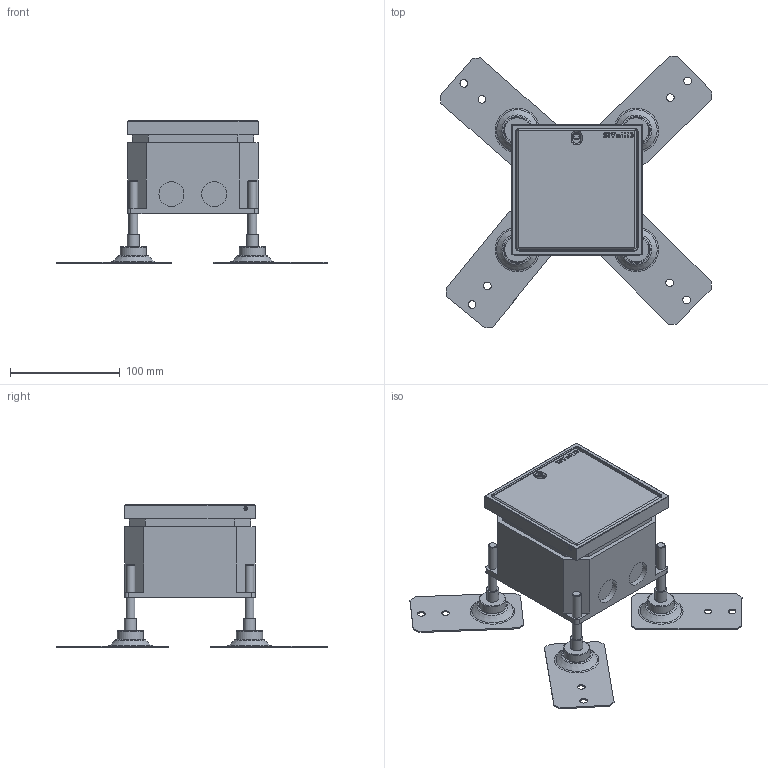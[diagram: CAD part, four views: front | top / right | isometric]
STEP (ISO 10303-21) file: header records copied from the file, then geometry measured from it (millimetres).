
FILE_DESCRIPTION(/* description */ (''),/* implementation_level */ '2;1');
FILE_NAME(/* name */ 'K:\Inventor\Dummy Zeichnungen Bodendosen\FONTO.4290.CLOSE.stp',/* time_stamp */ '2019-05-13T13:23:13+02:00',/* author */ ('mayrhofer'),/* organization */ ('GIFAS'),/* preprocessor_version */ 'ST-DEVELOPER v17.2',/* originating_system */ 'Autodesk Inventor 2019',/* authorisation */ '');
FILE_SCHEMA (('AUTOMOTIVE_DESIGN { 1 0 10303 214 3 1 1 }'));
Length unit declared in the file: millimetre
Products named in the file (9): FONTO.4290; Kokille_42xx43xx; Deckel_4290; ISO 8752 - 3 x 16; Nivellierfuß; 1533631_3DINV; BS 4183 - M5 x 6; Dichtung FONTO 4290; 309.LEG.45°.BS.MOSAIC.WEISS.2MOD.
Assembly tree (14 placements, depth 2):
  FONTO.4290
    Kokille_42xx43xx
    Deckel_4290
    ISO 8752 - 3 x 16  x2
    Nivellierfuß  x4
    1533631_3DINV
    BS 4183 - M5 x 6  x2
    Dichtung FONTO 4290
    309.LEG.45°.BS.MOSAIC.WEISS.2MOD.  x2
Bounding box: 247.92 x 247.74 x 130.2 mm (x, y, z)
Volume: 761090.8 mm3; surface area: 241523.1 mm2
Topology: 14 solids, 14 shells, 582 faces, 1464 edges, 960 vertices
Faces by surface type: plane 335, cylinder 135, cone 56, torus 37, bspline 15, sphere 4
Full cylindrical faces by diameter (mm): 0.1 x2, 3 x2, 3.5 x14, 4.019 x2, 5 x6, 6 x2, 6.647 x4, 6.7 x1, 7 x8, 8 x4, 8.75 x2, 11 x4, 22.835 x2, 24 x4, 39 x2
Entity records: 12272 total; most frequent: CARTESIAN_POINT 2542, ORIENTED_EDGE 1932, DIRECTION 1932, EDGE_CURVE 966, AXIS2_PLACEMENT_3D 658, VERTEX_POINT 637, LINE 616, VECTOR 616
